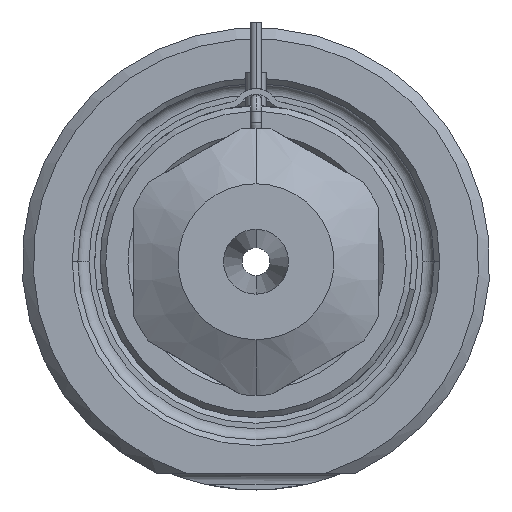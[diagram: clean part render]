
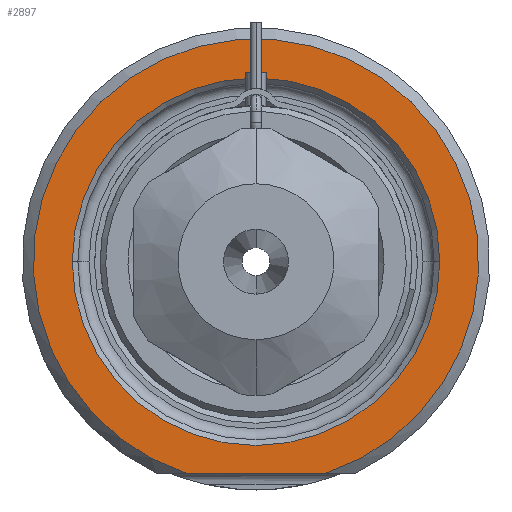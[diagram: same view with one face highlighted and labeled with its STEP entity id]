
A CAD part, front view. The second image highlights one B-rep face of the part: STEP entity #2897.
In plain terms, the highlighted planar face has unit normal (0, -1, 0).
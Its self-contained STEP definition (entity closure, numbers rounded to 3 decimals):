
#1=DIRECTION('',(1.,0.,0.));
#2=VECTOR('',#1,12.49);
#3=CARTESIAN_POINT('',(-6.245,0.,-19.));
#4=LINE('',#3,#2);
#5=CARTESIAN_POINT('',(0.,0.,0.));
#6=DIRECTION('',(0.,1.,0.));
#7=DIRECTION('',(-1.,0.,0.));
#8=AXIS2_PLACEMENT_3D('',#5,#6,#7);
#10=CARTESIAN_POINT('',(0.,0.,0.));
#11=DIRECTION('',(0.,1.,0.));
#12=DIRECTION('',(1.,0.,0.));
#13=AXIS2_PLACEMENT_3D('',#10,#11,#12);
#119=CARTESIAN_POINT('',(0.,0.,0.));
#120=DIRECTION('',(0.,-1.,0.));
#121=DIRECTION('',(0.312,0.,-0.95));
#122=AXIS2_PLACEMENT_3D('',#119,#120,#121);
#2418=CARTESIAN_POINT('',(-16.5,0.,0.));
#2419=CARTESIAN_POINT('',(16.5,0.,0.));
#2420=VERTEX_POINT('',#2418);
#2421=VERTEX_POINT('',#2419);
#2458=CARTESIAN_POINT('',(-6.245,0.,-19.));
#2459=CARTESIAN_POINT('',(6.245,0.,-19.));
#2460=VERTEX_POINT('',#2458);
#2461=VERTEX_POINT('',#2459);
#2880=CARTESIAN_POINT('',(0.,0.,0.));
#2881=DIRECTION('',(0.,-1.,0.));
#2882=DIRECTION('',(1.,0.,0.));
#2883=AXIS2_PLACEMENT_3D('',#2880,#2881,#2882);
#2884=PLANE('',#2883);
#2886=ORIENTED_EDGE('',*,*,#2885,.F.);
#2888=ORIENTED_EDGE('',*,*,#2887,.F.);
#2889=EDGE_LOOP('',(#2886,#2888));
#2890=FACE_OUTER_BOUND('',#2889,.F.);
#2892=ORIENTED_EDGE('',*,*,#2891,.F.);
#2894=ORIENTED_EDGE('',*,*,#2893,.F.);
#2895=EDGE_LOOP('',(#2892,#2894));
#2896=FACE_BOUND('',#2895,.F.);
#2897=ADVANCED_FACE('',(#2890,#2896),#2884,.T.);
#9=CIRCLE('',#8,16.5);
#14=CIRCLE('',#13,16.5);
#123=CIRCLE('',#122,20.);
#2885=EDGE_CURVE('',#2460,#2461,#4,.T.);
#2887=EDGE_CURVE('',#2461,#2460,#123,.T.);
#2891=EDGE_CURVE('',#2420,#2421,#9,.T.);
#2893=EDGE_CURVE('',#2421,#2420,#14,.T.);
